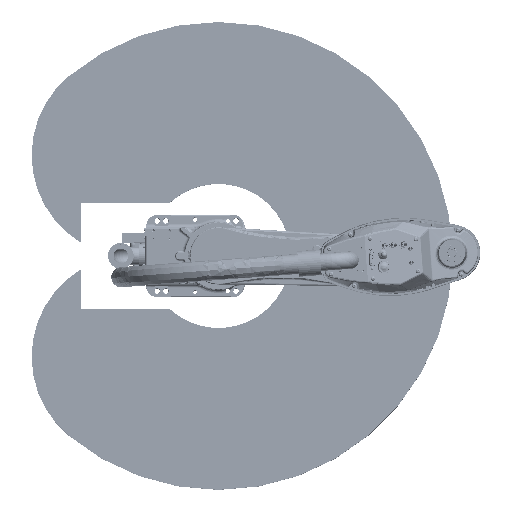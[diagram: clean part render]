
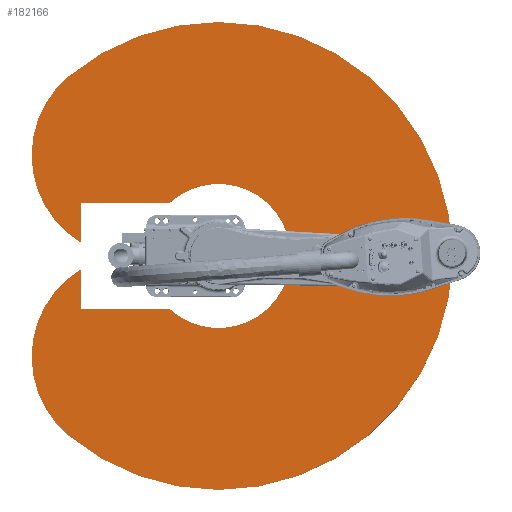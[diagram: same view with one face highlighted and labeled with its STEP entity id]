
A CAD part, top view. The second image highlights one B-rep face of the part: STEP entity #182166.
In plain terms, the highlighted planar face has unit normal (0, 0, 1) as drawn and (0, 1, 0) by its records, which use the part's own axes.
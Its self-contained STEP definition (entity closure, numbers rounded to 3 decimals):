
#1382 = CARTESIAN_POINT ( 'NONE',  ( -22.501, 150., 235. ) ) ;
#4392 = ORIENTED_EDGE ( 'NONE', *, *, #217704, .F. ) ;
#13614 = CARTESIAN_POINT ( 'NONE',  ( -172.36, 150., 235. ) ) ;
#17269 = AXIS2_PLACEMENT_3D ( 'NONE', #130053, #131105, #133164 ) ;
#18372 = VERTEX_POINT ( 'NONE', #188539 ) ;
#18907 = EDGE_CURVE ( 'NONE', #18372, #61333, #20417, .T. ) ;
#20417 = LINE ( 'NONE', #67354, #225822 ) ;
#20513 = AXIS2_PLACEMENT_3D ( 'NONE', #280758, #259873, #71011 ) ;
#29761 = VERTEX_POINT ( 'NONE', #66322 ) ;
#33011 = CIRCLE ( 'NONE', #143213, 123.3 ) ;
#34504 = AXIS2_PLACEMENT_3D ( 'NONE', #284092, #190154, #47310 ) ;
#41467 = LINE ( 'NONE', #62707, #190819 ) ;
#44656 = LINE ( 'NONE', #138214, #309520 ) ;
#47310 = DIRECTION ( 'NONE',  ( 0., 0., -1. ) ) ;
#48015 = ORIENTED_EDGE ( 'NONE', *, *, #133921, .F. ) ;
#50078 = CARTESIAN_POINT ( 'NONE',  ( -90., 150., 235. ) ) ;
#50414 = EDGE_CURVE ( 'NONE', #112960, #96730, #154627, .T. ) ;
#57360 = VECTOR ( 'NONE', #108450, 1000. ) ;
#61333 = VERTEX_POINT ( 'NONE', #50078 ) ;
#62707 = CARTESIAN_POINT ( 'NONE',  ( -172.36, 150., 235. ) ) ;
#63056 = CARTESIAN_POINT ( 'NONE',  ( -306.418, 150., 257.115 ) ) ;
#66322 = CARTESIAN_POINT ( 'NONE',  ( 0., 150., -123.3 ) ) ;
#67063 = CIRCLE ( 'NONE', #167033, 400. ) ;
#67169 = VERTEX_POINT ( 'NONE', #197388 ) ;
#67354 = CARTESIAN_POINT ( 'NONE',  ( -90., 150., 144.627 ) ) ;
#71011 = DIRECTION ( 'NONE',  ( 0., 0., -1. ) ) ;
#73847 = AXIS2_PLACEMENT_3D ( 'NONE', #149867, #127904, #173897 ) ;
#82355 = VERTEX_POINT ( 'NONE', #63056 ) ;
#88802 = DIRECTION ( 'NONE',  ( 0., -1., 0. ) ) ;
#91055 = ORIENTED_EDGE ( 'NONE', *, *, #125420, .F. ) ;
#95709 = ORIENTED_EDGE ( 'NONE', *, *, #120112, .F. ) ;
#96730 = VERTEX_POINT ( 'NONE', #226029 ) ;
#104781 = EDGE_CURVE ( 'NONE', #82355, #254996, #285428, .T. ) ;
#108450 = DIRECTION ( 'NONE',  ( 1., 0., 0. ) ) ;
#112657 = DIRECTION ( 'NONE',  ( 0., 0., -1. ) ) ;
#112960 = VERTEX_POINT ( 'NONE', #270531 ) ;
#120112 = EDGE_CURVE ( 'NONE', #266083, #29761, #33011, .T. ) ;
#122076 = DIRECTION ( 'NONE',  ( 0., 1., 0. ) ) ;
#125420 = EDGE_CURVE ( 'NONE', #96730, #67169, #146754, .T. ) ;
#127904 = DIRECTION ( 'NONE',  ( 0., -1., 0. ) ) ;
#130053 = CARTESIAN_POINT ( 'NONE',  ( 0., 150., 0. ) ) ;
#131105 = DIRECTION ( 'NONE',  ( 0., 1., 0. ) ) ;
#133164 = DIRECTION ( 'NONE',  ( 0., 0., -1. ) ) ;
#133921 = EDGE_CURVE ( 'NONE', #178713, #82355, #278561, .T. ) ;
#138214 = CARTESIAN_POINT ( 'NONE',  ( 90., 150., 144.627 ) ) ;
#142468 = EDGE_CURVE ( 'NONE', #29761, #18372, #297482, .T. ) ;
#143213 = AXIS2_PLACEMENT_3D ( 'NONE', #241089, #122076, #266147 ) ;
#143240 = AXIS2_PLACEMENT_3D ( 'NONE', #302561, #88802, #112657 ) ;
#146754 = LINE ( 'NONE', #13614, #57360 ) ;
#148432 = ORIENTED_EDGE ( 'NONE', *, *, #104781, .F. ) ;
#149867 = CARTESIAN_POINT ( 'NONE',  ( -172.36, 150., 144.627 ) ) ;
#152270 = DIRECTION ( 'NONE',  ( 0., 0., -1. ) ) ;
#154627 = CIRCLE ( 'NONE', #20513, 175. ) ;
#159136 = DIRECTION ( 'NONE',  ( 0., 0., -1. ) ) ;
#163236 = DIRECTION ( 'NONE',  ( 0., 0., 1. ) ) ;
#167033 = AXIS2_PLACEMENT_3D ( 'NONE', #222286, #269209, #152270 ) ;
#173897 = DIRECTION ( 'NONE',  ( 0., 0., -1. ) ) ;
#177156 = ORIENTED_EDGE ( 'NONE', *, *, #180595, .F. ) ;
#178713 = VERTEX_POINT ( 'NONE', #1382 ) ;
#180595 = EDGE_CURVE ( 'NONE', #254996, #112960, #67063, .T. ) ;
#182166 = ADVANCED_FACE ( 'NONE', ( #305020 ), #252630, .F. ) ;
#188385 = ORIENTED_EDGE ( 'NONE', *, *, #50414, .F. ) ;
#188539 = CARTESIAN_POINT ( 'NONE',  ( -90., 150., 84.279 ) ) ;
#190154 = DIRECTION ( 'NONE',  ( 0., -1., 0. ) ) ;
#190819 = VECTOR ( 'NONE', #226570, 1000. ) ;
#191033 = EDGE_LOOP ( 'NONE', ( #298882, #274467, #95709, #192485, #91055, #188385, #177156, #148432, #48015, #4392 ) ) ;
#191224 = EDGE_CURVE ( 'NONE', #67169, #266083, #44656, .T. ) ;
#192485 = ORIENTED_EDGE ( 'NONE', *, *, #191224, .F. ) ;
#197388 = CARTESIAN_POINT ( 'NONE',  ( 90., 150., 235. ) ) ;
#217704 = EDGE_CURVE ( 'NONE', #61333, #178713, #41467, .T. ) ;
#222286 = CARTESIAN_POINT ( 'NONE',  ( 0., 150., 0. ) ) ;
#225822 = VECTOR ( 'NONE', #163236, 1000. ) ;
#226029 = CARTESIAN_POINT ( 'NONE',  ( 22.501, 150., 235. ) ) ;
#226570 = DIRECTION ( 'NONE',  ( 1., 0., 0. ) ) ;
#241089 = CARTESIAN_POINT ( 'NONE',  ( 0., 150., 0. ) ) ;
#252630 = PLANE ( 'NONE',  #143240 ) ;
#254996 = VERTEX_POINT ( 'NONE', #272625 ) ;
#259873 = DIRECTION ( 'NONE',  ( 0., -1., 0. ) ) ;
#266083 = VERTEX_POINT ( 'NONE', #291622 ) ;
#266147 = DIRECTION ( 'NONE',  ( 0., 0., -1. ) ) ;
#269209 = DIRECTION ( 'NONE',  ( 0., -1., 0. ) ) ;
#270531 = CARTESIAN_POINT ( 'NONE',  ( 306.418, 150., 257.115 ) ) ;
#272625 = CARTESIAN_POINT ( 'NONE',  ( 0., 150., -400. ) ) ;
#274467 = ORIENTED_EDGE ( 'NONE', *, *, #142468, .F. ) ;
#278561 = CIRCLE ( 'NONE', #73847, 175. ) ;
#280758 = CARTESIAN_POINT ( 'NONE',  ( 172.36, 150., 144.627 ) ) ;
#284092 = CARTESIAN_POINT ( 'NONE',  ( 0., 150., 0. ) ) ;
#285428 = CIRCLE ( 'NONE', #34504, 400. ) ;
#291622 = CARTESIAN_POINT ( 'NONE',  ( 90., 150., 84.279 ) ) ;
#297482 = CIRCLE ( 'NONE', #17269, 123.3 ) ;
#298882 = ORIENTED_EDGE ( 'NONE', *, *, #18907, .F. ) ;
#302561 = CARTESIAN_POINT ( 'NONE',  ( -172.36, 150., 144.627 ) ) ;
#305020 = FACE_OUTER_BOUND ( 'NONE', #191033, .T. ) ;
#309520 = VECTOR ( 'NONE', #159136, 1000. ) ;
